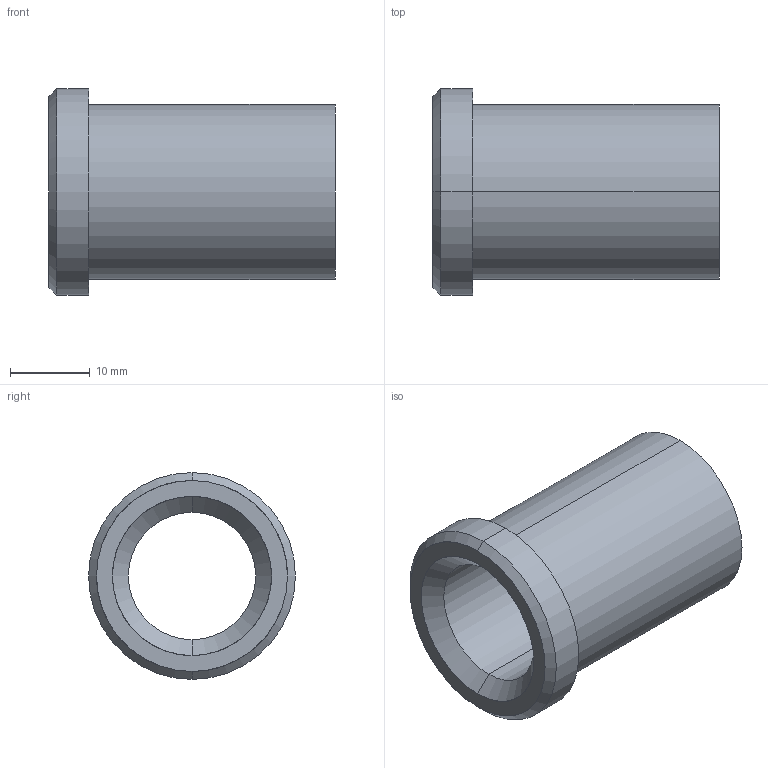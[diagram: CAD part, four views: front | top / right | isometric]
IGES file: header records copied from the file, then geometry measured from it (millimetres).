
Start section: START RECORD GO HERE.
Global section: file name: 353-16X36.igs; native system: DASSAULT SYSTEMES CATIA V5 R20 - www.3ds.com; preprocessor: CATIA Version 5 Release 20 ; author: Utente; organization: NB04-ASUS; date: 20210504.201847; units: millimetre
Bounding box: 36 x 26 x 26 mm (x, y, z)
Surface area: 4896.3 mm2 (no closed solid volume)
Topology: 0 solids, 0 shells, 15 faces, 96 edges, 96 vertices
Faces by surface type: revolution 12, plane 3
